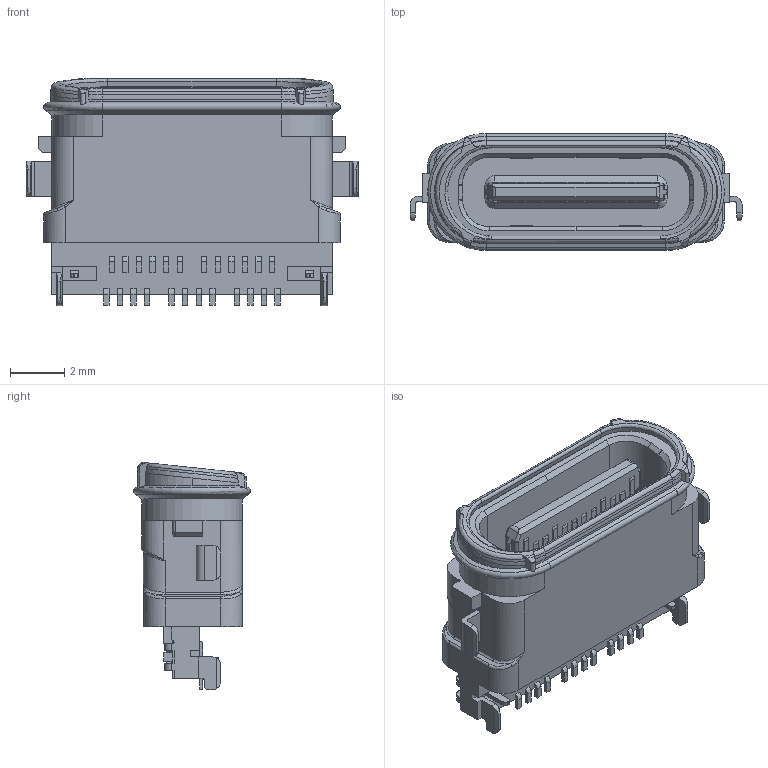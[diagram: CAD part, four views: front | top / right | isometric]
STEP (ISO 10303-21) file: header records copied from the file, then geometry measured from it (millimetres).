
FILE_DESCRIPTION (( 'STEP AP203' ), '1' );
FILE_NAME ('GT-USB-7026A.stp', '2023-02-27T06:58:49', ( '' ), ( '' ), 'SwSTEP 2.0', 'SolidWorks 2021', '' );
FILE_SCHEMA (( 'CONFIG_CONTROL_DESIGN' ));
Length unit declared in the file: millimetre
Products named in the file (1): GT-USB-7026A
Bounding box: 12.2 x 4.3 x 8.35 mm (x, y, z)
Volume: 167 mm3; surface area: 470.8 mm2
Topology: 1 solids, 1 shells, 879 faces, 2373 edges, 1518 vertices
Faces by surface type: plane 489, cylinder 224, bspline 102, torus 48, cone 12, sphere 4
Entity records: 36006 total; most frequent: CARTESIAN_POINT 14515, ORIENTED_EDGE 4726, DIRECTION 4064, EDGE_CURVE 2363, VECTOR 1582, LINE 1582, VERTEX_POINT 1518, AXIS2_PLACEMENT_3D 1241
